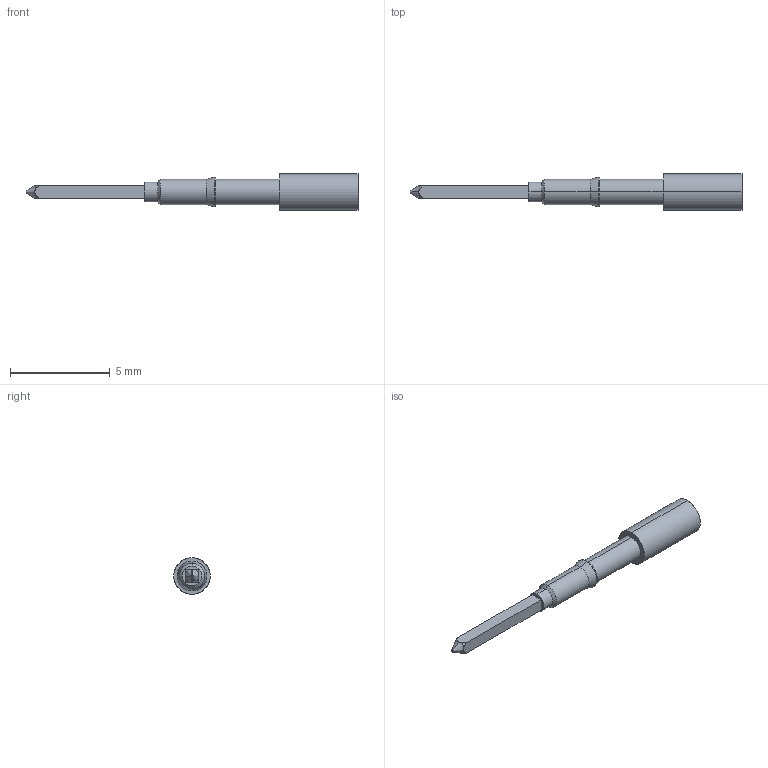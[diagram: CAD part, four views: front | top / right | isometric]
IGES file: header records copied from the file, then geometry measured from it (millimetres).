
Start section: SolidWorks IGES file using analytic representation for surfaces
Global section: file name: Z:\probe solid model mockups\Solidworks models\IGES Files\SIP-90-6.IGS; native system: SolidWorks 2006 by SolidWorks Corporation; preprocessor: SolidWorks 2006 by SolidWorks Corporation; author: tsakatani; date: 080102.110940; units: inch
Bounding box: 16.66 x 1.83 x 1.83 mm (x, y, z)
Surface area: 72.3 mm2 (no closed solid volume)
Topology: 0 solids, 0 shells, 31 faces, 310 edges, 308 vertices
Faces by surface type: revolution 22, bspline 9
